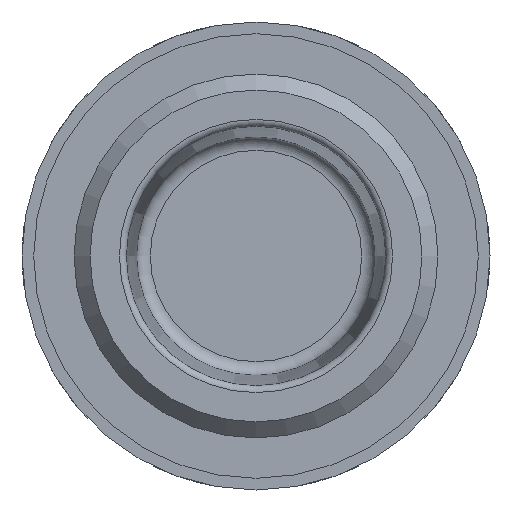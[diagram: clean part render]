
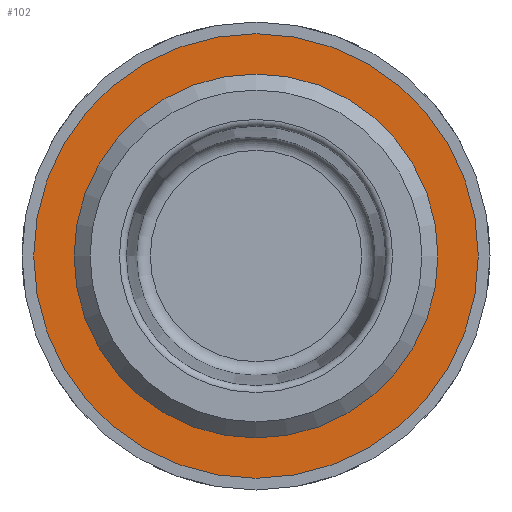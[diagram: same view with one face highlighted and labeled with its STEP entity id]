
A CAD part, left-side view. The second image highlights one B-rep face of the part: STEP entity #102.
In plain terms, the highlighted planar face has unit normal (-1, 0, 0).
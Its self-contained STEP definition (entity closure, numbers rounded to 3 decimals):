
#102 = ADVANCED_FACE( '', ( #188, #189 ), #190, .T. );
#188 = FACE_BOUND( '', #314, .T. );
#189 = FACE_OUTER_BOUND( '', #315, .T. );
#190 = PLANE( '', #316 );
#314 = EDGE_LOOP( '', ( #569 ) );
#315 = EDGE_LOOP( '', ( #570 ) );
#316 = AXIS2_PLACEMENT_3D( '', #571, #572, #573 );
#569 = ORIENTED_EDGE( '', *, *, #906, .T. );
#570 = ORIENTED_EDGE( '', *, *, #907, .F. );
#571 = CARTESIAN_POINT( '', ( 10.8, 16.15, 0. ) );
#572 = DIRECTION( '', ( -1., 0., 0. ) );
#573 = DIRECTION( '', ( 0., -1., 0. ) );
#906 = EDGE_CURVE( '', #1110, #1110, #1111, .T. );
#907 = EDGE_CURVE( '', #1112, #1112, #1113, .T. );
#1110 = VERTEX_POINT( '', #1440 );
#1111 = CIRCLE( '', #1441, 13.221 );
#1112 = VERTEX_POINT( '', #1442 );
#1113 = CIRCLE( '', #1443, 16.15 );
#1440 = CARTESIAN_POINT( '', ( 10.8, 13.221, 0. ) );
#1441 = AXIS2_PLACEMENT_3D( '', #1635, #1636, #1637 );
#1442 = CARTESIAN_POINT( '', ( 10.8, 16.15, 0. ) );
#1443 = AXIS2_PLACEMENT_3D( '', #1638, #1639, #1640 );
#1635 = CARTESIAN_POINT( '', ( 10.8, 0., 0. ) );
#1636 = DIRECTION( '', ( 1., 0., 0. ) );
#1637 = DIRECTION( '', ( 0., 1., 0. ) );
#1638 = CARTESIAN_POINT( '', ( 10.8, 0., 0. ) );
#1639 = DIRECTION( '', ( 1., 0., 0. ) );
#1640 = DIRECTION( '', ( 0., 1., 0. ) );
